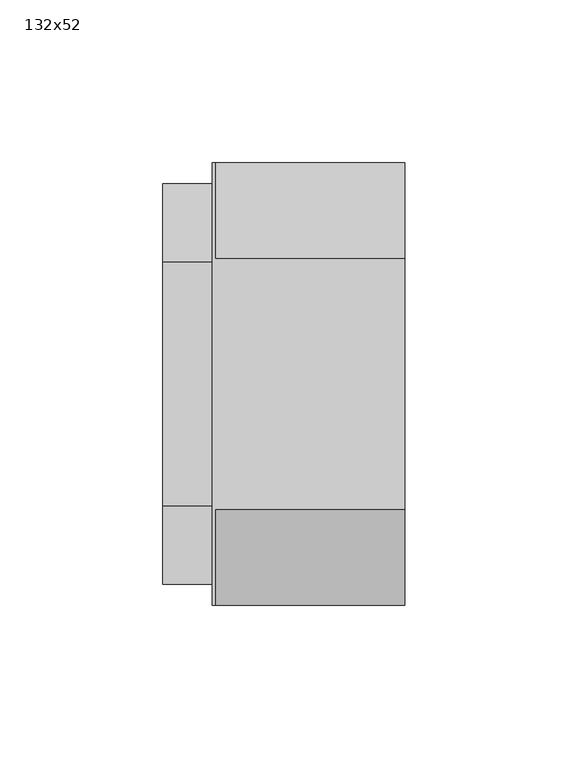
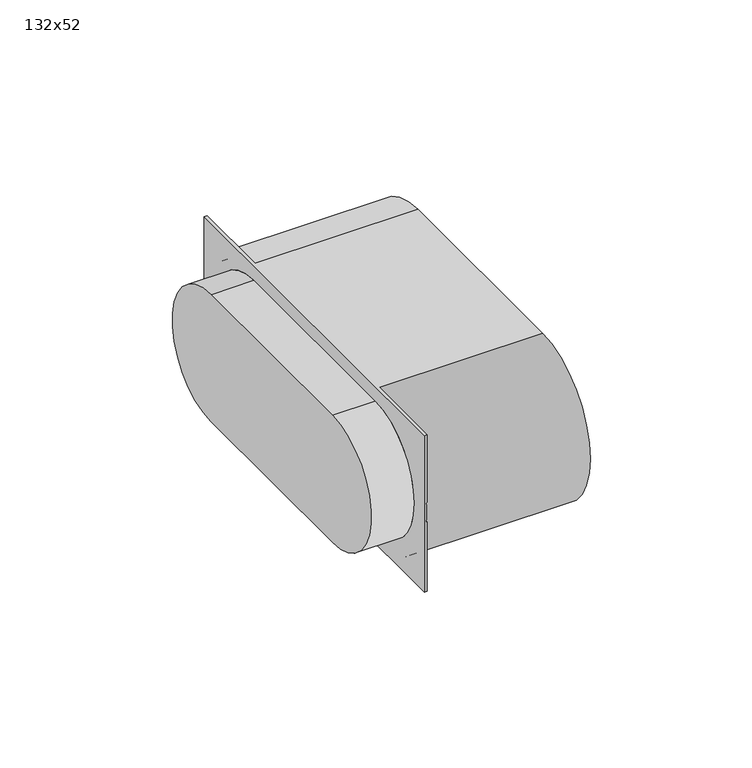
"""IFC4 building model written with IfcOpenShell, lengths in millimetres: duct fitting geometry, NLRS_57_DUF_UN_connection piece oval_M&G : 132x52."""

from ifc_helpers import new_model, si_unit, frame, origin, place, context, project, spatial, polyline, circle_curve, source, transform, mapped, element, save
from ifc_brep_helpers import plane_surface, cylinder_surface, revolved_surface, advanced_brep


def duct_fitting_132x52_e1013fcc(model_context):
    return source(origin(), model_context, "Body", "AdvancedBrep", [
        advanced_brep(
        [(0.0, -38.5, 29.5), (0.0, -68.0, 29.5), (0.0, -68.0, 0.0), (0.0, 68.0, 29.5), (0.0, 38.5, 29.5), (0.0, 68.0, 0.0), (0.0, 38.5, -29.5), (0.0, 68.0, -29.5), (0.0, -68.0, -29.5), (0.0, -38.5, -29.5), (0.0, -40.0, 26.0), (0.0, -40.0, -26.0), (0.0, 40.0, -26.0), (0.0, 40.0, 26.0), (-16.2, -37.5, 24.0), (-16.2, 37.5, 24.0), (-16.2, 37.5, -24.0), (-16.2, -37.5, -24.0), (-1.0, -37.5, -24.0), (-1.0, -37.5, 24.0), (-1.0, 37.5, -24.0), (-1.0, 37.5, 24.0), (58.2, -38.5, 29.5), (58.2, -38.5, -29.5), (58.2, 38.5, -29.5), (58.2, 38.5, 29.5), (58.2, -40.0, 26.0), (58.2, 40.0, 26.0), (58.2, 40.0, -26.0), (58.2, -40.0, -26.0), (-1.0, 68.0, 29.5), (-1.0, -68.0, 29.5), (-1.0, -68.0, -29.5), (-1.0, 68.0, -29.5)],
        [
            (0, 1),
            (1, 2),
            (2, 0, circle_curve(frame((0.0, -38.5, 0.0), z_axis=(-1.0, 0.0, 0.0), x_axis=(0.0, 1.0, 0.0)), 29.5)),
            (3, 4),
            (4, 5, circle_curve(frame((0.0, 38.5, 0.0), z_axis=(-1.0, 0.0, 0.0), x_axis=(0.0, 1.0, 0.0)), 29.5)),
            (5, 3),
            (6, 7),
            (7, 5),
            (5, 6, circle_curve(frame((0.0, 38.5, 0.0), z_axis=(-1.0, 0.0, 0.0), x_axis=(0.0, 1.0, 0.0)), 29.5)),
            (8, 9),
            (9, 2, circle_curve(frame((0.0, -38.5, 0.0), z_axis=(-1.0, 0.0, 0.0), x_axis=(0.0, 1.0, 0.0)), 29.5)),
            (2, 8),
            (10, 11, circle_curve(frame((0.0, -40.0, 0.0), z_axis=(1.0, 0.0, 0.0), x_axis=(0.0, 1.0, 0.0)), 26.0)),
            (11, 12),
            (12, 13, circle_curve(frame((0.0, 40.0, 0.0), z_axis=(1.0, 0.0, 0.0), x_axis=(0.0, 1.0, 0.0)), 26.0)),
            (13, 10),
            (14, 15),
            (15, 16, circle_curve(frame((-16.2, 37.5, 0.0), z_axis=(-1.0, 0.0, 0.0), x_axis=(0.0, -1.0, 0.0)), 24.0)),
            (16, 17),
            (17, 14, circle_curve(frame((-16.2, -37.5, 0.0), z_axis=(-1.0, 0.0, 0.0), x_axis=(0.0, -1.0, 0.0)), 24.0)),
            (17, 18),
            (18, 19, circle_curve(frame((-1.0, -37.5, 0.0), z_axis=(-1.0, 0.0, 0.0), x_axis=(0.0, -1.0, 0.0)), 24.0)),
            (19, 14),
            (16, 20),
            (20, 18),
            (15, 21),
            (21, 20, circle_curve(frame((-1.0, 37.5, 0.0), z_axis=(-1.0, 0.0, 0.0), x_axis=(0.0, -1.0, 0.0)), 24.0)),
            (19, 21),
            (22, 23, circle_curve(frame((58.2, -38.5, 0.0), z_axis=(1.0, 0.0, 0.0), x_axis=(0.0, 1.0, 0.0)), 29.5)),
            (23, 24),
            (24, 25, circle_curve(frame((58.2, 38.5, 0.0), z_axis=(1.0, 0.0, 0.0), x_axis=(0.0, 1.0, 0.0)), 29.5)),
            (25, 22),
            (26, 27),
            (27, 28, circle_curve(frame((58.2, 40.0, 0.0), z_axis=(-1.0, 0.0, 0.0), x_axis=(0.0, 1.0, 0.0)), 26.0)),
            (28, 29),
            (29, 26, circle_curve(frame((58.2, -40.0, 0.0), z_axis=(-1.0, 0.0, 0.0), x_axis=(0.0, 1.0, 0.0)), 26.0)),
            (25, 4),
            (3, 30),
            (30, 31),
            (31, 1),
            (0, 22),
            (24, 6),
            (23, 9),
            (8, 32),
            (32, 33),
            (33, 7),
            (29, 11),
            (10, 26),
            (28, 12),
            (27, 13),
            (30, 33),
            (32, 31),
        ],
        [
            plane_surface(frame((0.0, 0.0, 0.0), z_axis=(1.0, 0.0, 0.0), x_axis=(0.0, 0.0, 1.0))),
            plane_surface(frame((-16.2, 0.0, 0.0), z_axis=(-1.0, 0.0, 0.0), x_axis=(0.0, 0.0, 1.0))),
            cylinder_surface(frame((0.0, -37.5, 0.0), z_axis=(1.0, 0.0, 0.0), x_axis=(0.0, -1.0, 0.0)), 24.0),
            plane_surface(frame((0.0, -37.5, -24.0), z_axis=(0.0, 0.0, -1.0), x_axis=(-1.0, 0.0, 0.0))),
            cylinder_surface(frame((0.0, 37.5, 0.0), z_axis=(1.0, 0.0, 0.0), x_axis=(0.0, -1.0, 0.0)), 24.0),
            plane_surface(frame((0.0, 37.5, 24.0), z_axis=(0.0, 0.0, 1.0), x_axis=(-1.0, 0.0, 0.0))),
            plane_surface(frame((58.2, 0.0, 0.0), z_axis=(1.0, 0.0, 0.0), x_axis=(0.0, 0.0, 1.0))),
            plane_surface(frame((0.0, -38.5, 29.5), z_axis=(0.0, 0.0, 1.0), x_axis=(1.0, 0.0, 0.0))),
            cylinder_surface(frame((0.0, 38.5, 0.0), z_axis=(-1.0, 0.0, 0.0), x_axis=(0.0, 1.0, 0.0)), 29.5),
            plane_surface(frame((0.0, 38.5, -29.5), z_axis=(0.0, 0.0, -1.0), x_axis=(1.0, 0.0, 0.0))),
            cylinder_surface(frame((0.0, -38.5, 0.0), z_axis=(-1.0, 0.0, 0.0), x_axis=(0.0, 1.0, 0.0)), 29.5),
            revolved_surface(polyline([(58.2, -14.0, 0.0), (0.0, -14.0, 0.0)]), (0.0, -40.0, 0.0), (1.0, 0.0, 0.0)),
            plane_surface(frame((0.0, -40.0, -26.0), z_axis=(0.0, 0.0, 1.0), x_axis=(1.0, 0.0, 0.0))),
            revolved_surface(polyline([(58.2, 66.0, 0.0), (0.0, 66.0, 0.0)]), (0.0, 40.0, 0.0), (1.0, 0.0, 0.0)),
            plane_surface(frame((0.0, 40.0, 26.0), z_axis=(0.0, 0.0, -1.0), x_axis=(1.0, 0.0, 0.0))),
            plane_surface(frame((-1.0, -68.0, 29.5), z_axis=(-1.0, 0.0, 0.0), x_axis=(0.0, 0.0, 1.0))),
            plane_surface(frame((0.0, -68.0, 29.5), z_axis=(0.0, -1.0, 0.0), x_axis=(-1.0, 0.0, 0.0))),
            plane_surface(frame((0.0, 68.0, -29.5), z_axis=(0.0, 1.0, 0.0), x_axis=(-1.0, 0.0, 0.0))),
        ],
        [
            (0, [[1, 2, 3]]),
            (0, [[4, 5, 6]]),
            (0, [[7, 8, 9]]),
            (0, [[10, 11, 12]]),
            (0, [[13, 14, 15, 16]]),
            (1, [[17, 18, 19, 20]]),
            (2, [[-20, 21, 22, 23]]),
            (3, [[-19, 24, 25, -21]]),
            (4, [[-18, 26, 27, -24]]),
            (5, [[-17, -23, 28, -26]]),
            (6, [[29, 30, 31, 32], [33, 34, 35, 36]]),
            (7, [[-32, 37, -4, 38, 39, 40, -1, 41]]),
            (8, [[-31, 42, -9, -5, -37]]),
            (9, [[-30, 43, -10, 44, 45, 46, -7, -42]]),
            (10, [[-29, -41, -3, -11, -43]]),
            (11, [[-36, 47, -13, 48]]),
            (12, [[-35, 49, -14, -47]]),
            (13, [[-34, 50, -15, -49]]),
            (14, [[-33, -48, -16, -50]]),
            (15, [[-39, 51, -45, 52], [-22, -25, -27, -28]]),
            (16, [[-52, -44, -12, -2, -40]]),
            (17, [[-51, -38, -6, -8, -46]]),
        ],
    ),
    ])


if __name__ == "__main__":
    model = new_model("IFC4")
    model_context = context("Model", 3, world=origin())
    ifc_project = project(units=[si_unit("LENGTHUNIT", "METRE", prefix="MILLI")], contexts=[model_context])
    site = spatial("IfcSite", under=ifc_project)
    building = spatial("IfcBuilding", under=site)
    placement = place(None, origin())
    duct_fitting_132x52_shape = duct_fitting_132x52_e1013fcc(model_context)
    element("IfcDuctFitting", 1, ObjectType="NLRS_57_DUF_UN_connection piece oval_M&G : 132x52", at=placement, inside=building, context=model_context, shape_type="MappedRepresentation", body=[
        mapped(duct_fitting_132x52_shape, transform((0.0, 0.0, 0.0), x_axis=(1.0, 0.0, 0.0), y_axis=(0.0, 1.0, 0.0), z_axis=(0.0, 0.0, 1.0))),
    ])
    save(model, "model.ifc")
